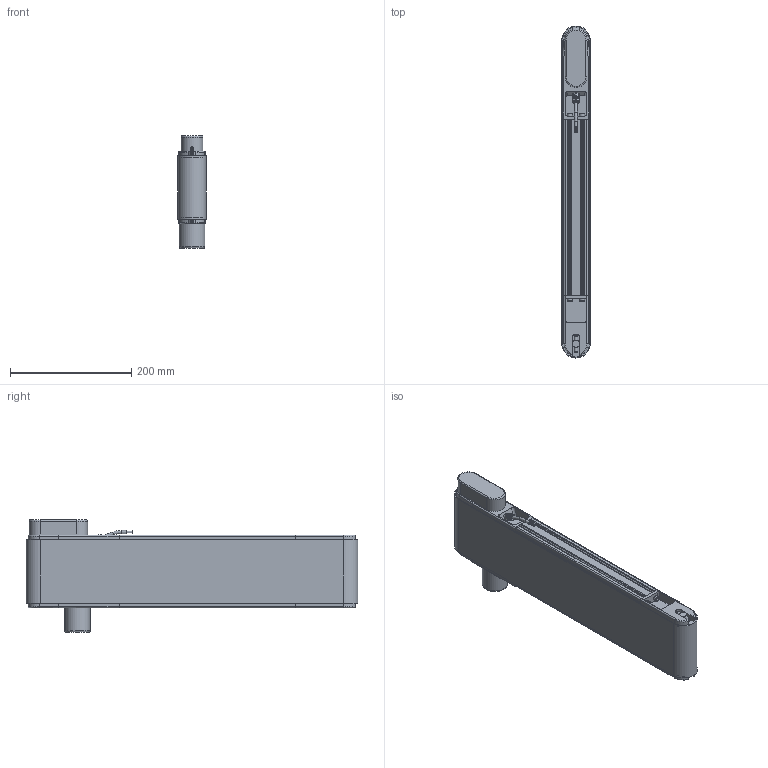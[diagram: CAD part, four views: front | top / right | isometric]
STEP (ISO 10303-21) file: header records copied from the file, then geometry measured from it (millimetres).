
FILE_DESCRIPTION(/* description */ (''),/* implementation_level */ '2;1');
FILE_NAME(/* name */ 'G:\DATEN\CAD\Förderband\Marketing\3D-Modelle (Standard)\FR-40-120-Q\FR-40-120-Q-500-K (Motorendrohr 40 mm).stp',/* time_stamp */ '2019-05-09T08:28:22+02:00',/* author */ ('melanie.ochs'),/* organization */ (''),/* preprocessor_version */ 'ST-DEVELOPER v17',/* originating_system */ 'Autodesk Inventor 2019',/* authorisation */ '');
FILE_SCHEMA (('CONFIG_CONTROL_DESIGN'));
Length unit declared in the file: centimetre
Products named in the file (1): FR-40-120-Q-500-K (Motorendrohr 40 mm)
Bounding box: 46.6 x 546.6 x 185 mm (x, y, z)
Volume: 1642452 mm3; surface area: 676410.7 mm2
Topology: 31 solids, 32 shells, 869 faces, 2355 edges, 1600 vertices
Faces by surface type: plane 439, cylinder 274, cone 65, bspline 61, torus 30
Full cylindrical faces by diameter (mm): 1 x6, 4 x6, 4.3 x4, 4.65 x1, 4.917 x1, 5 x11, 5.5 x8, 6 x2, 6.5 x1, 6.773 x1, 6.917 x2, 8 x7, 8.3 x8, 8.5 x8, 8.773 x1, 10 x1, 11 x1, 12 x3, 25 x2, 28 x4, 40.917 x1, 42 x1, 44 x2
Entity records: 29133 total; most frequent: CARTESIAN_POINT 6163, ORIENTED_EDGE 4674, DIRECTION 4526, EDGE_CURVE 2337, AXIS2_PLACEMENT_3D 1637, VERTEX_POINT 1600, LINE 1252, VECTOR 1252
